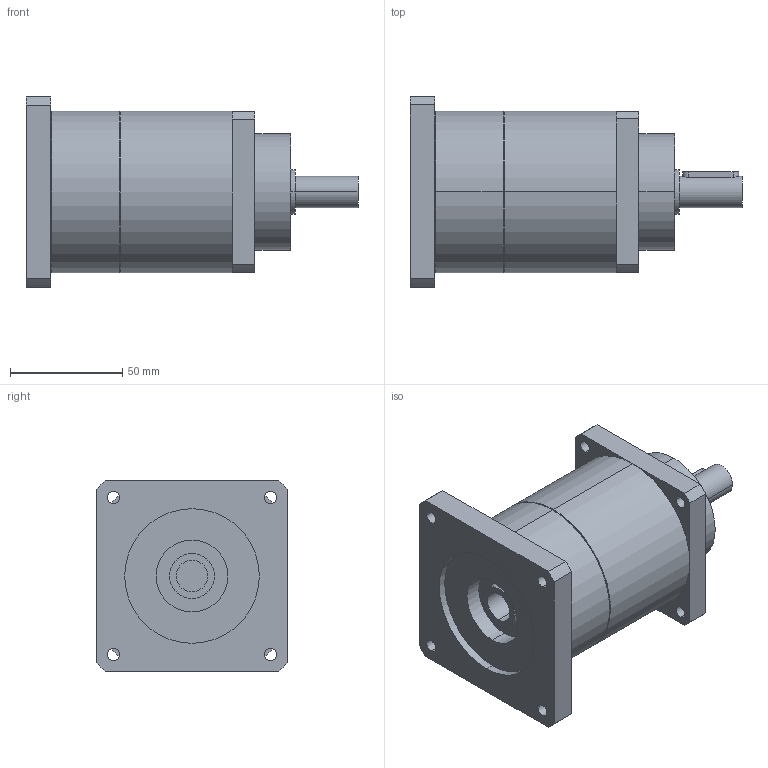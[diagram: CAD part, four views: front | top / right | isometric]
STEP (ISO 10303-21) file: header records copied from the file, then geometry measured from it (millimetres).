
FILE_DESCRIPTION(('CoCreate Modeling STEP Export'),'2;1');
FILE_NAME('GPT75_ig-9-12-16-20-25-28-35-40-50-70-100_14_B5T_14_P33.stp','2014-08-27T13:38:17',(''),(''),'CoCreate Modeling STEP processor for AP214 (Solid Model)','CoCreate Modeling 16.00C 25-Feb-2009 (C) Parametric Technology GmbH','');
FILE_SCHEMA(('AUTOMOTIVE_DESIGN { 1 0 10303 214 1 1 1 1 }'));
Length unit declared in the file: millimetre
Products named in the file (2): GPT75_ig-9-12-16-20-25-28-35-40-50-70-100_14_B5T_14_P33
Assembly tree (1 placements, depth 2):
  GPT75_ig-9-12-16-20-25-28-35-40-50-70-100_14_B5T_14_P33
    GPT75_ig-9-12-16-20-25-28-35-40-50-70-100_14_B5T_14_P33
Bounding box: 148 x 85 x 85 mm (x, y, z)
Volume: 477699.9 mm3; surface area: 50054.1 mm2
Topology: 1 solids, 1 shells, 77 faces, 194 edges, 129 vertices
Faces by surface type: cylinder 46, plane 27, cone 4
Entity records: 2484 total; most frequent: CARTESIAN_POINT 719, ORIENTED_EDGE 388, DIRECTION 320, EDGE_CURVE 194, VERTEX_POINT 129, AXIS2_PLACEMENT_3D 118, EDGE_LOOP 103, VECTOR 84
